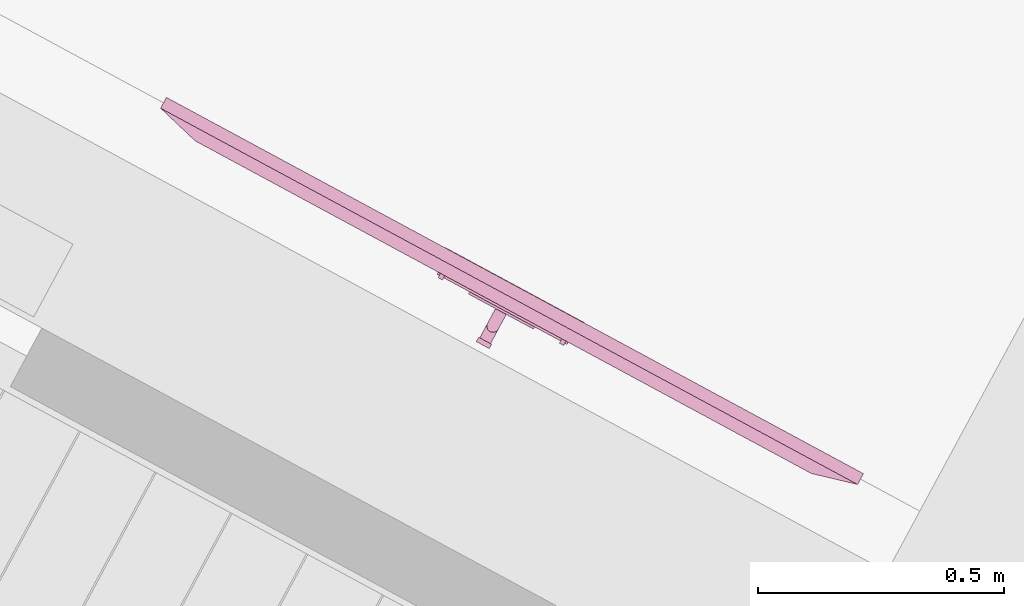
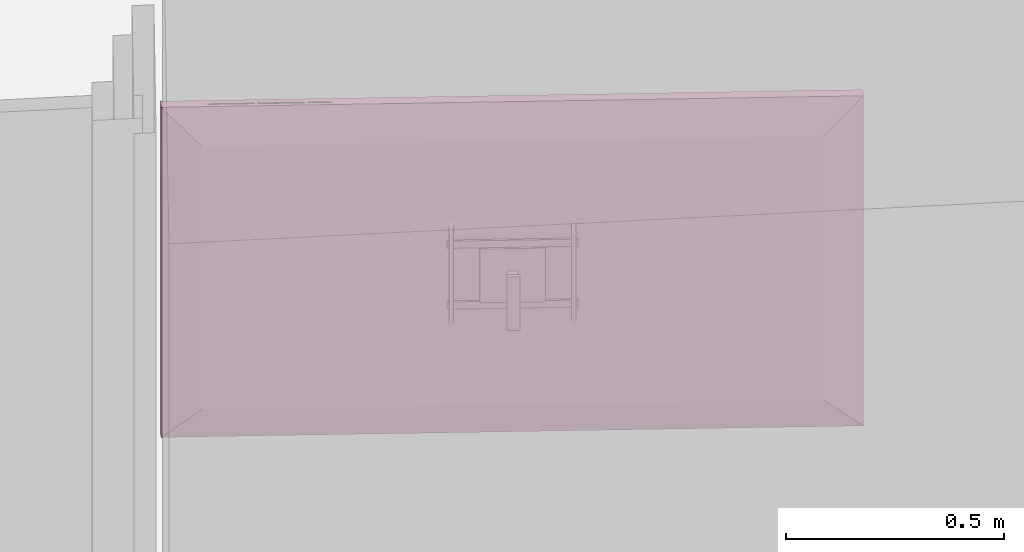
# One storey, part 22 of 41: 1 furnishing.
"""IFC2X3 building model written with IfcOpenShell, lengths in metres."""

from ifc_helpers import new_model, entity, si_unit, converted_unit, derived_unit, money_unit, direction, frame, origin_with_axes, place, context, subcontext, project, spatial, faceted_brep, source, transform, mapped, type_object, element, save


model = new_model("IFC2X3")

# Units and contexts
model_context = context("Model", 3, precision=1e-05, world=origin_with_axes(), true_north=direction((0.0, 1.0)))
body_context = subcontext(model_context, "Body", "Model", "MODEL_VIEW")
ifc_project = project(units=[si_unit("LENGTHUNIT", "METRE"), si_unit("AREAUNIT", "SQUARE_METRE"), si_unit("VOLUMEUNIT", "CUBIC_METRE"), converted_unit("PLANEANGLEUNIT", "DEGREE", entity("IfcPlaneAngleMeasure", 0.0174532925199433), si_unit("PLANEANGLEUNIT", "RADIAN"), dimensions=[0, 0, 0, 0, 0, 0, 0]), money_unit("EUR"), converted_unit("TIMEUNIT", "Year", entity("IfcTimeMeasure", 31556926.0), si_unit("TIMEUNIT", "SECOND"), dimensions=[0, 0, 1, 0, 0, 0, 0]), si_unit("MASSUNIT", "GRAM", prefix="KILO"), si_unit("THERMODYNAMICTEMPERATUREUNIT", "DEGREE_CELSIUS"), si_unit("LUMINOUSINTENSITYUNIT", "LUMEN"), si_unit("ENERGYUNIT", "JOULE", prefix="MEGA"), derived_unit("THERMALCONDUCTANCEUNIT", [(si_unit("POWERUNIT", "WATT"), 1), (si_unit("LENGTHUNIT", "METRE"), -1), (si_unit("THERMODYNAMICTEMPERATUREUNIT", "KELVIN"), -1)]), derived_unit("SPECIFICHEATCAPACITYUNIT", [(si_unit("ENERGYUNIT", "JOULE"), 1), (si_unit("MASSUNIT", "GRAM", prefix="KILO"), -1), (si_unit("THERMODYNAMICTEMPERATUREUNIT", "KELVIN"), -1)]), derived_unit("MASSDENSITYUNIT", [(si_unit("MASSUNIT", "GRAM", prefix="KILO"), 1), (si_unit("VOLUMEUNIT", "CUBIC_METRE"), -1)])], contexts=[model_context])

# Site, building, storey
site_placement = place(None, frame((-3.949935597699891, 1.740105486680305, 0.0), z_axis=(0.0, 0.0, 1.0), x_axis=(0.8799804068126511, -0.475009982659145, 0.0)))
site = spatial("IfcSite", under=ifc_project, at=site_placement, Name="Gelände", CompositionType="ELEMENT")
building_placement = place(site_placement, origin_with_axes())
building = spatial("IfcBuilding", under=site, at=building_placement, Name="Gebäude", CompositionType="ELEMENT")
storey_placement = place(building_placement, frame((0.0, 0.0, 4.55), z_axis=(0.0, 0.0, 1.0), x_axis=(1.0, 0.0, 0.0)))
storey = spatial("IfcBuildingStorey", under=building, at=storey_placement, Name="Staffelgeschoss", CompositionType="ELEMENT", Elevation=4.55)

# Furnishing
furniture_type = type_object("IfcFurnitureType", Name="Flachbildfernseher 22", AssemblyPlace="NOTDEFINED")
shared_shape = source(origin_with_axes(), body_context, "Body", "Brep", [
    faceted_brep([(-0.7294179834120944, 0.06000000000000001, 0.5362351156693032), (-0.8794179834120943, 0.06000000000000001, 0.5362351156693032), (-0.8794179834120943, 0.05000000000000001, 0.5362351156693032), (-0.7294179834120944, 0.05000000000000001, 0.5362351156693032), (-0.7294179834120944, 0.06, 0.3862351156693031), (-0.8794179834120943, 0.06, 0.3862351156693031), (-0.8794179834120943, 0.05, 0.3862351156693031), (-0.7294179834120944, 0.05, 0.3862351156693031)], [[[0, 1, 2, 3]], [[0, 4, 5, 1]], [[1, 5, 6, 2]], [[3, 2, 6, 7]], [[4, 0, 3, 7]], [[5, 4, 7, 6]]]),
    faceted_brep([(-0.6544179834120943, 0.055, 0.3662351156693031), (-0.6544179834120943, 0.055, 0.3862351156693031), (-0.6544179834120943, 0.05, 0.3862351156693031), (-0.6544179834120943, 0.05, 0.3662351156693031), (-0.9544179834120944, 0.055, 0.3662351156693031), (-0.9544179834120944, 0.055, 0.3862351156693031), (-0.9544179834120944, 0.05, 0.3862351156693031), (-0.9544179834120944, 0.05, 0.3662351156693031)], [[[0, 1, 2, 3]], [[0, 4, 5, 1]], [[1, 5, 6, 2]], [[3, 2, 6, 7]], [[4, 0, 3, 7]], [[5, 4, 7, 6]]]),
    faceted_brep([(-0.6544179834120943, 0.05500000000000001, 0.5562351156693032), (-0.6544179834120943, 0.05000000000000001, 0.5562351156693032), (-0.6544179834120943, 0.05000000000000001, 0.5362351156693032), (-0.6544179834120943, 0.05500000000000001, 0.5362351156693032), (-0.9544179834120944, 0.05500000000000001, 0.5562351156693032), (-0.9544179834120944, 0.05000000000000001, 0.5562351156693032), (-0.9544179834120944, 0.05000000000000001, 0.5362351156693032), (-0.9544179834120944, 0.05500000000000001, 0.5362351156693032)], [[[0, 1, 2, 3]], [[4, 5, 1, 0]], [[1, 5, 6, 2]], [[3, 2, 6, 7]], [[0, 3, 7, 4]], [[7, 6, 5, 4]]]),
    faceted_brep([(-0.6694179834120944, 0.05999999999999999, 0.3487351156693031), (-0.6694179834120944, 0.06, 0.5737351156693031), (-0.6594179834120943, 0.06, 0.5737351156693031), (-0.6594179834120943, 0.05999999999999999, 0.3487351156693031), (-0.6694179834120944, 0.04999999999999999, 0.3112351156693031), (-0.6694179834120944, 0.05, 0.6112351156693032), (-0.6594179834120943, 0.05, 0.6112351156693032), (-0.6594179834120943, 0.04999999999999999, 0.3112351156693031)], [[[0, 1, 2, 3]], [[0, 4, 5, 1]], [[1, 5, 6, 2]], [[3, 2, 6, 7]], [[4, 0, 3, 7]], [[5, 4, 7, 6]]]),
    faceted_brep([(-0.9394179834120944, 0.06, 0.3487351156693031), (-0.9494179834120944, 0.06, 0.3487351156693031), (-0.9494179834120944, 0.06000000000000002, 0.5737351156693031), (-0.9394179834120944, 0.06000000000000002, 0.5737351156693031), (-0.9394179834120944, 0.05, 0.3112351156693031), (-0.9494179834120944, 0.05, 0.3112351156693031), (-0.9494179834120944, 0.05000000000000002, 0.6112351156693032), (-0.9394179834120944, 0.05000000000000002, 0.6112351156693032)], [[[0, 1, 2, 3]], [[4, 5, 1, 0]], [[1, 5, 6, 2]], [[3, 2, 6, 7]], [[0, 3, 7, 4]], [[7, 6, 5, 4]]]),
    faceted_brep([(-0.8169179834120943, 0.09375000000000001, 0.4737351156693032), (-0.8161641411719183, 0.09802525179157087, 0.4737351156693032), (-0.8161641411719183, 0.09802525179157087, 0.4237351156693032), (-0.8169179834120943, 0.09375000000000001, 0.4237351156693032), (-0.8161641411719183, 0.08947474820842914, 0.4737351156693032), (-0.8139935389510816, 0.08571515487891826, 0.4737351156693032), (-0.8106679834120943, 0.08292468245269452, 0.4737351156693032), (-0.806588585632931, 0.0814399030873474, 0.4737351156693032), (-0.8022473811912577, 0.08143990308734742, 0.4737351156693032), (-0.7981679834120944, 0.08292468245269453, 0.4737351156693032), (-0.7948424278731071, 0.08571515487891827, 0.4737351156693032), (-0.7926718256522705, 0.08947474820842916, 0.4737351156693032), (-0.7919179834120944, 0.09375000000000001, 0.4737351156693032), (-0.7926718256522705, 0.09802525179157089, 0.4737351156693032), (-0.7948424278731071, 0.1017848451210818, 0.4737351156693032), (-0.7981679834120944, 0.1045753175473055, 0.4737351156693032), (-0.8022473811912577, 0.1060600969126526, 0.4737351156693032), (-0.806588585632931, 0.1060600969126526, 0.4737351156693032), (-0.8106679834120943, 0.1045753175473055, 0.4737351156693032), (-0.8139935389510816, 0.1017848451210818, 0.4737351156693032), (-0.8139935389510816, 0.1017848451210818, 0.4237351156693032), (-0.8106679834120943, 0.1045753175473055, 0.4237351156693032), (-0.806588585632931, 0.1060600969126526, 0.4237351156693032), (-0.8022473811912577, 0.1060600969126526, 0.4237351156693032), (-0.7981679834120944, 0.1045753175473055, 0.4237351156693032), (-0.7948424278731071, 0.1017848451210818, 0.4237351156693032), (-0.7926718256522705, 0.09802525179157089, 0.4237351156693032), (-0.7919179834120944, 0.09375000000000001, 0.4237351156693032), (-0.7926718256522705, 0.08947474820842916, 0.4237351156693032), (-0.7948424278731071, 0.08571515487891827, 0.4237351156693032), (-0.7981679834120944, 0.08292468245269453, 0.4237351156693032), (-0.8022473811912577, 0.08143990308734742, 0.4237351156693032), (-0.806588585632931, 0.0814399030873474, 0.4237351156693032), (-0.8106679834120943, 0.08292468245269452, 0.4237351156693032), (-0.8139935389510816, 0.08571515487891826, 0.4237351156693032), (-0.8161641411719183, 0.08947474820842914, 0.4237351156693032)], [[[0, 1, 2, 3]], [[0, 4, 5, 6, 7, 8, 9, 10, 11, 12, 13, 14, 15, 16, 17, 18, 19, 1]], [[1, 19, 20, 2]], [[3, 2, 20, 21, 22, 23, 24, 25, 26, 27, 28, 29, 30, 31, 32, 33, 34, 35]], [[4, 0, 3, 35]], [[5, 4, 35, 34]], [[6, 5, 34, 33]], [[7, 6, 33, 32]], [[8, 7, 32, 31]], [[9, 8, 31, 30]], [[10, 9, 30, 29]], [[11, 10, 29, 28]], [[12, 11, 28, 27]], [[13, 12, 27, 26]], [[14, 13, 26, 25]], [[15, 14, 25, 24]], [[16, 15, 24, 23]], [[17, 16, 23, 22]], [[18, 17, 22, 21]], [[19, 18, 21, 20]]]),
    faceted_brep([(-0.8169179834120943, 0.09375000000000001, 0.4487351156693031), (-0.8169179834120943, 0.06, 0.4487351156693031), (-0.8169179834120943, 0.06, 0.4737351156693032), (-0.8169179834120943, 0.09375000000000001, 0.4737351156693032), (-0.8161641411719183, 0.08947474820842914, 0.4487351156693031), (-0.8139935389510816, 0.08571515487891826, 0.4487351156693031), (-0.8106679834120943, 0.08292468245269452, 0.4487351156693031), (-0.806588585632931, 0.0814399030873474, 0.4487351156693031), (-0.8022473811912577, 0.08143990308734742, 0.4487351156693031), (-0.7981679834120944, 0.08292468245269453, 0.4487351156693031), (-0.7948424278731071, 0.08571515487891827, 0.4487351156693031), (-0.7926718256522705, 0.08947474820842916, 0.4487351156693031), (-0.7919179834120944, 0.09375000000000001, 0.4487351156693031), (-0.7919179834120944, 0.06, 0.4487351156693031), (-0.7919179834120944, 0.06, 0.4737351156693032), (-0.7926718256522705, 0.08947474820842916, 0.4737351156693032), (-0.7948424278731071, 0.08571515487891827, 0.4737351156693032), (-0.7981679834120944, 0.08292468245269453, 0.4737351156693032), (-0.8022473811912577, 0.08143990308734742, 0.4737351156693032), (-0.806588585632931, 0.0814399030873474, 0.4737351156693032), (-0.8106679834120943, 0.08292468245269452, 0.4737351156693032), (-0.8139935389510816, 0.08571515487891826, 0.4737351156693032), (-0.8161641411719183, 0.08947474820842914, 0.4737351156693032), (-0.7919179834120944, 0.09375000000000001, 0.4737351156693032)], [[[0, 1, 2, 3]], [[4, 5, 6, 7, 8, 9, 10, 11, 12, 13, 1, 0]], [[1, 13, 14, 2]], [[15, 16, 17, 18, 19, 20, 21, 22, 3, 2, 14, 23]], [[22, 4, 0, 3]], [[21, 5, 4, 22]], [[20, 6, 5, 21]], [[19, 7, 6, 20]], [[18, 8, 7, 19]], [[17, 9, 8, 18]], [[16, 10, 9, 17]], [[15, 11, 10, 16]], [[23, 12, 11, 15]], [[23, 14, 13, 12]]]),
    faceted_brep([(-0.8139935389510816, 0.1017848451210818, 0.4487351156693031), (-0.8106679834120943, 0.1045753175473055, 0.4487351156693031), (-0.806588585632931, 0.1060600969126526, 0.4487351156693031), (-0.8022473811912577, 0.1060600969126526, 0.4487351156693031), (-0.7981679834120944, 0.1045753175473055, 0.4487351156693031), (-0.7948424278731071, 0.1017848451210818, 0.4487351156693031), (-0.7926718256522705, 0.09802525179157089, 0.4487351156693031), (-0.7919179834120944, 0.09375000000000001, 0.4487351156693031), (-0.7919179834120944, 0.1275, 0.4487351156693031), (-0.8169179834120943, 0.1275, 0.4487351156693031), (-0.8169179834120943, 0.09375000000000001, 0.4487351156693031), (-0.8161641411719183, 0.09802525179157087, 0.4487351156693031), (-0.8139935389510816, 0.1017848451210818, 0.4237351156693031), (-0.8106679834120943, 0.1045753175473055, 0.4237351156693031), (-0.806588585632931, 0.1060600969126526, 0.4237351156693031), (-0.8022473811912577, 0.1060600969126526, 0.4237351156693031), (-0.7981679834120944, 0.1045753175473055, 0.4237351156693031), (-0.7948424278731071, 0.1017848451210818, 0.4237351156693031), (-0.7926718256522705, 0.09802525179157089, 0.4237351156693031), (-0.7919179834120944, 0.09375000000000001, 0.4237351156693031), (-0.7919179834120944, 0.1275, 0.4237351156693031), (-0.8169179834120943, 0.1275, 0.4237351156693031), (-0.8169179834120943, 0.09375000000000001, 0.4237351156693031), (-0.8161641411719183, 0.09802525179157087, 0.4237351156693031)], [[[0, 1, 2, 3, 4, 5, 6, 7, 8, 9, 10, 11]], [[0, 12, 13, 1]], [[1, 13, 14, 2]], [[2, 14, 15, 3]], [[3, 15, 16, 4]], [[4, 16, 17, 5]], [[5, 17, 18, 6]], [[6, 18, 19, 7]], [[19, 20, 8, 7]], [[8, 20, 21, 9]], [[10, 9, 21, 22]], [[10, 22, 23, 11]], [[11, 23, 12, 0]], [[18, 17, 16, 15, 14, 13, 12, 23, 22, 21, 20, 19]]]),
    faceted_brep([(-0.7894179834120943, 0.1275, 0.3612351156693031), (-0.8194179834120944, 0.1275, 0.3612351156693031), (-0.8194179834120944, 0.1375, 0.3612351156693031), (-0.7894179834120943, 0.1375, 0.3612351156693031), (-0.7894179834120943, 0.1275, 0.5112351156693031), (-0.8194179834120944, 0.1275, 0.5112351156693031), (-0.8194179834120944, 0.1375, 0.5112351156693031), (-0.7894179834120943, 0.1375, 0.5112351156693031)], [[[0, 1, 2, 3]], [[0, 4, 5, 1]], [[1, 5, 6, 2]], [[3, 2, 6, 7]], [[4, 0, 3, 7]], [[5, 4, 7, 6]]]),
    faceted_brep([(-1.588835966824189, 0.0, 0.02), (-1.588835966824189, 0.0, 0.9024702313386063), (-1.588835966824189, 0.0009999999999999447, 0.9024702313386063), (-1.588835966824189, 0.0009999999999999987, 0.02), (-0.02, 0.0, 0.02), (-0.02, 0.0, 0.9024702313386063), (-0.02, 0.0009999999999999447, 0.9024702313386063), (-0.02, 0.0009999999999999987, 0.02)], [[[0, 1, 2, 3]], [[0, 4, 5, 1]], [[1, 5, 6, 2]], [[3, 2, 6, 7]], [[4, 0, 3, 7]], [[5, 4, 7, 6]]]),
    faceted_brep([(-1.608835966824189, 0.0, 0.9224702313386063), (-1.608835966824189, 0.0, 0.0), (0.0, 0.0, 0.0), (0.0, 0.0, 0.9224702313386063), (-0.02000000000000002, 0.0, 0.02000000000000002), (-1.588835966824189, 0.0, 0.02000000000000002), (-1.588835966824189, 0.0, 0.9024702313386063), (-0.02000000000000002, 0.0, 0.9024702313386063), (-1.608835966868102, 0.025, -3.895163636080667e-10), (-1.608835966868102, 0.02499999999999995, 0.9224702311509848), (3.895163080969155e-10, 0.025, -3.895163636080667e-10), (3.895163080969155e-10, 0.02499999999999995, 0.9224702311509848), (-0.02000000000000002, 0.0009999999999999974, 0.02000000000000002), (-1.588835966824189, 0.0009999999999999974, 0.02000000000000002), (-1.588835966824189, 0.0009999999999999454, 0.9024702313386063), (-0.02000000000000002, 0.0009999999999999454, 0.9024702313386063), (-1.515534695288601, 0.05000000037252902, 0.09330127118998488), (-1.515534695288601, 0.05000000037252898, 0.8291689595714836), (-0.09330127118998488, 0.05000000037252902, 0.09330127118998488), (-0.09330127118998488, 0.05000000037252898, 0.8291689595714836)], [[[0, 1, 2, 3], [4, 5, 6, 7]], [[8, 1, 0, 9]], [[10, 2, 1, 8]], [[11, 3, 2, 10]], [[9, 0, 3, 11]], [[4, 12, 13, 5]], [[5, 13, 14, 6]], [[6, 14, 15, 7]], [[7, 15, 12, 4]], [[16, 8, 9, 17]], [[18, 10, 8, 16]], [[19, 11, 10, 18]], [[17, 9, 11, 19]], [[14, 13, 12, 15]], [[17, 19, 18, 16]]]),
    faceted_brep([(-0.8044179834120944, -0.0008000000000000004, 0.005), (-0.8205063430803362, -0.0008000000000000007, 0.01), (-0.8205063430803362, 0.0, 0.01), (-0.8044179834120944, 0.0, 0.005), (-0.7883296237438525, -0.0008000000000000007, 0.01), (-0.6435343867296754, -0.000800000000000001, 0.015), (-0.9653015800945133, -0.000800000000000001, 0.015), (-0.9653015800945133, 0.0, 0.015), (-0.6435343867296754, 0.0, 0.015), (-0.7883296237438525, 0.0, 0.01)], [[[0, 1, 2, 3]], [[0, 4, 5, 6, 1]], [[1, 6, 7, 2]], [[3, 2, 7, 8, 9]], [[4, 0, 3, 9]], [[5, 4, 9, 8]], [[6, 5, 8, 7]]]),
    faceted_brep([(-0.2145114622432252, 0.009999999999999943, 0.9224702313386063), (-0.1072557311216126, 0.009999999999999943, 0.9224702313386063), (-0.1072557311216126, 0.009999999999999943, 0.9240702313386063), (-0.2145114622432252, 0.009999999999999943, 0.9240702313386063), (-0.2145114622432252, 0.01624999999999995, 0.9224702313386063), (-0.1072557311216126, 0.01624999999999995, 0.9224702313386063), (-0.1072557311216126, 0.01624999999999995, 0.9240702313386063), (-0.2145114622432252, 0.01624999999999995, 0.9240702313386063)], [[[0, 1, 2, 3]], [[1, 0, 4, 5]], [[2, 1, 5, 6]], [[3, 2, 6, 7]], [[0, 3, 7, 4]], [[5, 4, 7, 6]]]),
    faceted_brep([(-0.3294283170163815, 0.009999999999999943, 0.9224702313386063), (-0.2221725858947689, 0.009999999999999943, 0.9224702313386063), (-0.2221725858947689, 0.009999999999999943, 0.9240702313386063), (-0.3294283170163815, 0.009999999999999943, 0.9240702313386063), (-0.3294283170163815, 0.01624999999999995, 0.9224702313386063), (-0.2221725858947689, 0.01624999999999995, 0.9224702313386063), (-0.2221725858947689, 0.01624999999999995, 0.9240702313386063), (-0.3294283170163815, 0.01624999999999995, 0.9240702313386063)], [[[0, 1, 2, 3]], [[1, 0, 4, 5]], [[2, 1, 5, 6]], [[3, 2, 6, 7]], [[0, 3, 7, 4]], [[5, 4, 7, 6]]]),
    faceted_brep([(-0.3907173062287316, 0.009999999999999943, 0.9224702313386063), (-0.3370894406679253, 0.009999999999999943, 0.9224702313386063), (-0.3370894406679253, 0.009999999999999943, 0.9240702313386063), (-0.3907173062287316, 0.009999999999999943, 0.9240702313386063), (-0.3907173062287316, 0.01624999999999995, 0.9224702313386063), (-0.3370894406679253, 0.01624999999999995, 0.9224702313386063), (-0.3370894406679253, 0.01624999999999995, 0.9240702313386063), (-0.3907173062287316, 0.01624999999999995, 0.9240702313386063)], [[[0, 1, 2, 3]], [[1, 0, 4, 5]], [[2, 1, 5, 6]], [[3, 2, 6, 7]], [[0, 3, 7, 4]], [[5, 4, 7, 6]]]),
])
furnishing_placement = place(storey_placement, frame((9.0724806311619, 1.777487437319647, 0.3499999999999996), z_axis=(0.0, 0.0, 1.0), x_axis=(-1.0, 0.0, 0.0)))
element("IfcFurnishingElement", 1, at=furnishing_placement, inside=storey, type_object=furniture_type, Name="Objekt-0064", ObjectType="FURNITURE", context=body_context, shape_type="MappedRepresentation", body=[
    mapped(shared_shape, transform((0.0, 0.0, 0.0))),
])

save(model, "model.ifc")
